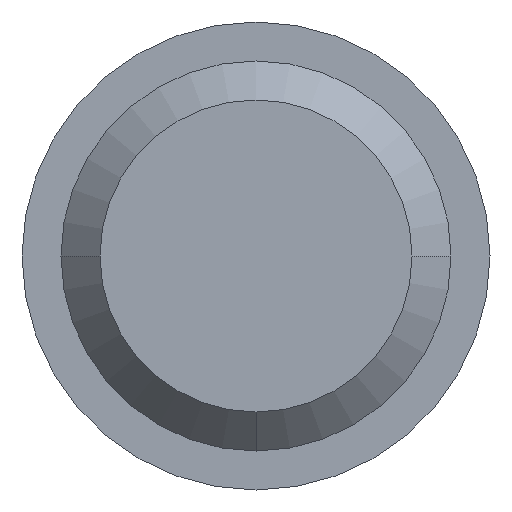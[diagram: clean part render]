
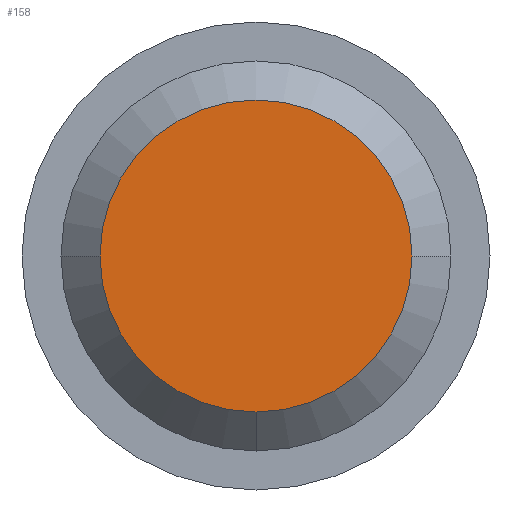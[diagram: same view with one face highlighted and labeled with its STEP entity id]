
A CAD part, front view. The second image highlights one B-rep face of the part: STEP entity #158.
In plain terms, the highlighted planar face has unit normal (0, -1, 0).
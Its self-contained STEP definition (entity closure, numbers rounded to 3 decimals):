
#12 = EDGE_LOOP ( 'NONE', ( #41, #20, #436 ) ) ;
#20 = ORIENTED_EDGE ( 'NONE', *, *, #226, .T. ) ;
#36 = DIRECTION ( 'NONE',  ( 0., 1., 0. ) ) ;
#41 = ORIENTED_EDGE ( 'NONE', *, *, #236, .T. ) ;
#44 = DIRECTION ( 'NONE',  ( 0., -1., 0. ) ) ;
#46 = CIRCLE ( 'NONE', #476, 2. ) ;
#69 = FACE_OUTER_BOUND ( 'NONE', #12, .T. ) ;
#80 = DIRECTION ( 'NONE',  ( 0., -1., 0. ) ) ;
#104 = PLANE ( 'NONE',  #412 ) ;
#151 = VERTEX_POINT ( 'NONE', #272 ) ;
#152 = CARTESIAN_POINT ( 'NONE',  ( 0., -35., 0. ) ) ;
#156 = CARTESIAN_POINT ( 'NONE',  ( 0., -35., 0. ) ) ;
#158 = ADVANCED_FACE ( 'NONE', ( #69 ), #104, .F. ) ;
#187 = CIRCLE ( 'NONE', #470, 2. ) ;
#226 = EDGE_CURVE ( 'NONE', #151, #327, #484, .T. ) ;
#236 = EDGE_CURVE ( 'NONE', #429, #151, #46, .T. ) ;
#241 = DIRECTION ( 'NONE',  ( -1., 0., 0. ) ) ;
#271 = DIRECTION ( 'NONE',  ( 1., 0., 0. ) ) ;
#272 = CARTESIAN_POINT ( 'NONE',  ( 0., -35., -2. ) ) ;
#274 = DIRECTION ( 'NONE',  ( 1., 0., 0. ) ) ;
#317 = CARTESIAN_POINT ( 'NONE',  ( 0., -35., 0. ) ) ;
#319 = DIRECTION ( 'NONE',  ( -1., 0., 0. ) ) ;
#327 = VERTEX_POINT ( 'NONE', #371 ) ;
#368 = EDGE_CURVE ( 'NONE', #327, #429, #187, .T. ) ;
#371 = CARTESIAN_POINT ( 'NONE',  ( 2., -35., 0. ) ) ;
#393 = CARTESIAN_POINT ( 'NONE',  ( -2., -35., 0. ) ) ;
#412 = AXIS2_PLACEMENT_3D ( 'NONE', #419, #36, #271 ) ;
#419 = CARTESIAN_POINT ( 'NONE',  ( 0., -35., 0. ) ) ;
#429 = VERTEX_POINT ( 'NONE', #393 ) ;
#436 = ORIENTED_EDGE ( 'NONE', *, *, #368, .T. ) ;
#464 = DIRECTION ( 'NONE',  ( 0., -1., 0. ) ) ;
#468 = AXIS2_PLACEMENT_3D ( 'NONE', #156, #44, #319 ) ;
#470 = AXIS2_PLACEMENT_3D ( 'NONE', #152, #464, #274 ) ;
#476 = AXIS2_PLACEMENT_3D ( 'NONE', #317, #80, #241 ) ;
#484 = CIRCLE ( 'NONE', #468, 2. ) ;
